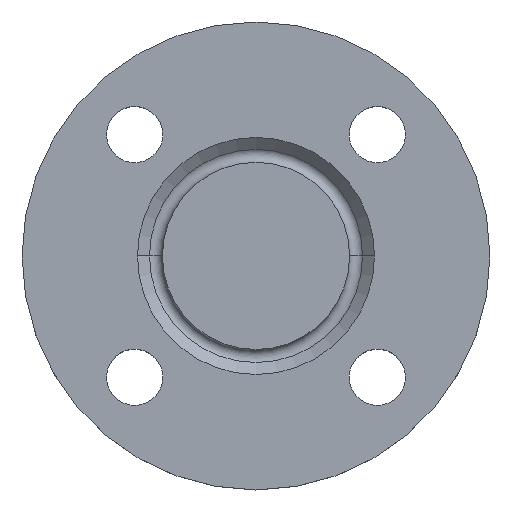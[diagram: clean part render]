
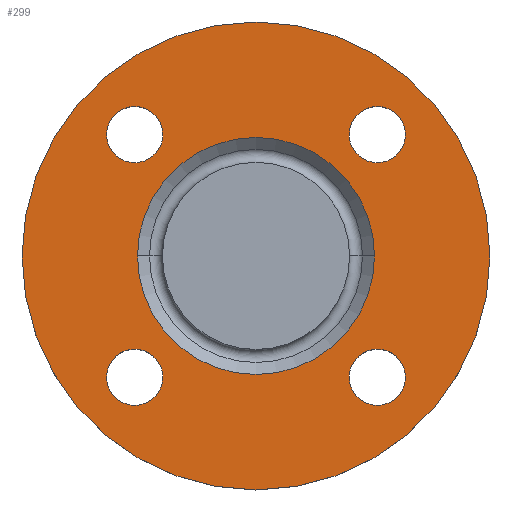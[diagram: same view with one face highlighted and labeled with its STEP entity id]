
A CAD part, top view. The second image highlights one B-rep face of the part: STEP entity #299.
In plain terms, the highlighted planar face has unit normal (0, 0, 1).
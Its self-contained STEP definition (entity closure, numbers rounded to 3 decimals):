
#3 = ORIENTED_EDGE ( 'NONE', *, *, #313, .T. ) ;
#5 = VERTEX_POINT ( 'NONE', #163 ) ;
#8 = EDGE_CURVE ( 'NONE', #284, #166, #88, .T. ) ;
#14 = EDGE_CURVE ( 'NONE', #5, #510, #663, .T. ) ;
#30 = DIRECTION ( 'NONE',  ( 0., 0., -1. ) ) ;
#40 = AXIS2_PLACEMENT_3D ( 'NONE', #171, #551, #682 ) ;
#43 = CARTESIAN_POINT ( 'NONE',  ( -38.891, -38.891, -2. ) ) ;
#48 = CARTESIAN_POINT ( 'NONE',  ( 38.891, 38.891, -2. ) ) ;
#59 = CARTESIAN_POINT ( 'NONE',  ( 47.891, 38.891, -2. ) ) ;
#61 = FACE_BOUND ( 'NONE', #539, .T. ) ;
#66 = DIRECTION ( 'NONE',  ( 0., 0., -1. ) ) ;
#88 = CIRCLE ( 'NONE', #436, 9. ) ;
#102 = AXIS2_PLACEMENT_3D ( 'NONE', #813, #734, #542 ) ;
#125 = DIRECTION ( 'NONE',  ( 0., 0., -1. ) ) ;
#132 = ORIENTED_EDGE ( 'NONE', *, *, #14, .T. ) ;
#133 = CARTESIAN_POINT ( 'NONE',  ( -38., 0., -2. ) ) ;
#139 = DIRECTION ( 'NONE',  ( 0., 0., -1. ) ) ;
#141 = DIRECTION ( 'NONE',  ( 1., 0., 0. ) ) ;
#153 = CARTESIAN_POINT ( 'NONE',  ( -47.891, 38.891, -2. ) ) ;
#156 = CARTESIAN_POINT ( 'NONE',  ( -29.891, -38.891, -2. ) ) ;
#157 = ORIENTED_EDGE ( 'NONE', *, *, #700, .T. ) ;
#163 = CARTESIAN_POINT ( 'NONE',  ( 47.891, -38.891, -2. ) ) ;
#166 = VERTEX_POINT ( 'NONE', #407 ) ;
#167 = VERTEX_POINT ( 'NONE', #457 ) ;
#171 = CARTESIAN_POINT ( 'NONE',  ( 0., 0., -2. ) ) ;
#173 = ORIENTED_EDGE ( 'NONE', *, *, #253, .T. ) ;
#195 = DIRECTION ( 'NONE',  ( 1., 0., 0. ) ) ;
#196 = DIRECTION ( 'NONE',  ( -1., 0., 0. ) ) ;
#197 = DIRECTION ( 'NONE',  ( 0., 0., -1. ) ) ;
#217 = CARTESIAN_POINT ( 'NONE',  ( -29.891, 38.891, -2. ) ) ;
#220 = DIRECTION ( 'NONE',  ( -1., 0., 0. ) ) ;
#221 = DIRECTION ( 'NONE',  ( 0., 0., -1. ) ) ;
#222 = VERTEX_POINT ( 'NONE', #133 ) ;
#225 = CARTESIAN_POINT ( 'NONE',  ( -38.891, -38.891, -2. ) ) ;
#226 = EDGE_CURVE ( 'NONE', #824, #599, #745, .T. ) ;
#227 = DIRECTION ( 'NONE',  ( 0., 0., -1. ) ) ;
#241 = EDGE_CURVE ( 'NONE', #377, #458, #301, .T. ) ;
#248 = CIRCLE ( 'NONE', #40, 75. ) ;
#251 = CARTESIAN_POINT ( 'NONE',  ( 38.891, -38.891, -2. ) ) ;
#253 = EDGE_CURVE ( 'NONE', #850, #222, #761, .T. ) ;
#254 = CARTESIAN_POINT ( 'NONE',  ( 38., 0., -2. ) ) ;
#270 = AXIS2_PLACEMENT_3D ( 'NONE', #251, #523, #601 ) ;
#283 = CARTESIAN_POINT ( 'NONE',  ( -38.891, 38.891, -2. ) ) ;
#284 = VERTEX_POINT ( 'NONE', #156 ) ;
#285 = EDGE_LOOP ( 'NONE', ( #425, #347 ) ) ;
#288 = DIRECTION ( 'NONE',  ( 0., 0., -1. ) ) ;
#295 = VERTEX_POINT ( 'NONE', #320 ) ;
#299 = ADVANCED_FACE ( 'NONE', ( #526, #371, #304, #61, #737, #324 ), #623, .T. ) ;
#301 = CIRCLE ( 'NONE', #614, 9. ) ;
#304 = FACE_BOUND ( 'NONE', #591, .T. ) ;
#313 = EDGE_CURVE ( 'NONE', #510, #5, #402, .T. ) ;
#319 = AXIS2_PLACEMENT_3D ( 'NONE', #43, #125, #355 ) ;
#320 = CARTESIAN_POINT ( 'NONE',  ( 75., 0., -2. ) ) ;
#324 = FACE_OUTER_BOUND ( 'NONE', #383, .T. ) ;
#327 = AXIS2_PLACEMENT_3D ( 'NONE', #816, #288, #492 ) ;
#347 = ORIENTED_EDGE ( 'NONE', *, *, #424, .T. ) ;
#355 = DIRECTION ( 'NONE',  ( 1., 0., 0. ) ) ;
#367 = CARTESIAN_POINT ( 'NONE',  ( 29.891, -38.891, -2. ) ) ;
#371 = FACE_BOUND ( 'NONE', #285, .T. ) ;
#373 = AXIS2_PLACEMENT_3D ( 'NONE', #48, #429, #384 ) ;
#377 = VERTEX_POINT ( 'NONE', #59 ) ;
#383 = EDGE_LOOP ( 'NONE', ( #634, #473 ) ) ;
#384 = DIRECTION ( 'NONE',  ( 1., 0., 0. ) ) ;
#391 = CARTESIAN_POINT ( 'NONE',  ( 0., 0., -2. ) ) ;
#402 = CIRCLE ( 'NONE', #327, 9. ) ;
#407 = CARTESIAN_POINT ( 'NONE',  ( -47.891, -38.891, -2. ) ) ;
#424 = EDGE_CURVE ( 'NONE', #166, #284, #579, .T. ) ;
#425 = ORIENTED_EDGE ( 'NONE', *, *, #8, .T. ) ;
#429 = DIRECTION ( 'NONE',  ( 0., 0., -1. ) ) ;
#436 = AXIS2_PLACEMENT_3D ( 'NONE', #225, #197, #655 ) ;
#454 = AXIS2_PLACEMENT_3D ( 'NONE', #391, #30, #220 ) ;
#455 = CARTESIAN_POINT ( 'NONE',  ( -38.891, 38.891, -2. ) ) ;
#457 = CARTESIAN_POINT ( 'NONE',  ( -75., 0., -2. ) ) ;
#458 = VERTEX_POINT ( 'NONE', #811 ) ;
#465 = AXIS2_PLACEMENT_3D ( 'NONE', #525, #729, #852 ) ;
#473 = ORIENTED_EDGE ( 'NONE', *, *, #603, .F. ) ;
#492 = DIRECTION ( 'NONE',  ( 1., 0., 0. ) ) ;
#496 = EDGE_LOOP ( 'NONE', ( #132, #3 ) ) ;
#502 = AXIS2_PLACEMENT_3D ( 'NONE', #641, #66, #196 ) ;
#510 = VERTEX_POINT ( 'NONE', #367 ) ;
#523 = DIRECTION ( 'NONE',  ( 0., 0., -1. ) ) ;
#524 = CIRCLE ( 'NONE', #691, 9. ) ;
#525 = CARTESIAN_POINT ( 'NONE',  ( 75., 0., -2. ) ) ;
#526 = FACE_BOUND ( 'NONE', #496, .T. ) ;
#539 = EDGE_LOOP ( 'NONE', ( #584, #632 ) ) ;
#542 = DIRECTION ( 'NONE',  ( -1., 0., 0. ) ) ;
#551 = DIRECTION ( 'NONE',  ( 0., 0., -1. ) ) ;
#567 = EDGE_CURVE ( 'NONE', #599, #824, #524, .T. ) ;
#579 = CIRCLE ( 'NONE', #319, 9. ) ;
#580 = EDGE_CURVE ( 'NONE', #295, #167, #662, .T. ) ;
#584 = ORIENTED_EDGE ( 'NONE', *, *, #241, .T. ) ;
#587 = CIRCLE ( 'NONE', #502, 38. ) ;
#591 = EDGE_LOOP ( 'NONE', ( #793, #743 ) ) ;
#599 = VERTEX_POINT ( 'NONE', #217 ) ;
#601 = DIRECTION ( 'NONE',  ( 1., 0., 0. ) ) ;
#603 = EDGE_CURVE ( 'NONE', #167, #295, #248, .T. ) ;
#604 = AXIS2_PLACEMENT_3D ( 'NONE', #455, #227, #842 ) ;
#614 = AXIS2_PLACEMENT_3D ( 'NONE', #624, #221, #141 ) ;
#623 = PLANE ( 'NONE',  #465 ) ;
#624 = CARTESIAN_POINT ( 'NONE',  ( 38.891, 38.891, -2. ) ) ;
#632 = ORIENTED_EDGE ( 'NONE', *, *, #791, .T. ) ;
#634 = ORIENTED_EDGE ( 'NONE', *, *, #580, .F. ) ;
#641 = CARTESIAN_POINT ( 'NONE',  ( 0., 0., -2. ) ) ;
#655 = DIRECTION ( 'NONE',  ( 1., 0., 0. ) ) ;
#662 = CIRCLE ( 'NONE', #102, 75. ) ;
#663 = CIRCLE ( 'NONE', #270, 9. ) ;
#682 = DIRECTION ( 'NONE',  ( -1., 0., 0. ) ) ;
#691 = AXIS2_PLACEMENT_3D ( 'NONE', #283, #139, #195 ) ;
#700 = EDGE_CURVE ( 'NONE', #222, #850, #587, .T. ) ;
#704 = EDGE_LOOP ( 'NONE', ( #173, #157 ) ) ;
#729 = DIRECTION ( 'NONE',  ( 0., 0., 1. ) ) ;
#734 = DIRECTION ( 'NONE',  ( 0., 0., -1. ) ) ;
#737 = FACE_BOUND ( 'NONE', #704, .T. ) ;
#743 = ORIENTED_EDGE ( 'NONE', *, *, #226, .T. ) ;
#745 = CIRCLE ( 'NONE', #604, 9. ) ;
#761 = CIRCLE ( 'NONE', #454, 38. ) ;
#791 = EDGE_CURVE ( 'NONE', #458, #377, #798, .T. ) ;
#793 = ORIENTED_EDGE ( 'NONE', *, *, #567, .T. ) ;
#798 = CIRCLE ( 'NONE', #373, 9. ) ;
#811 = CARTESIAN_POINT ( 'NONE',  ( 29.891, 38.891, -2. ) ) ;
#813 = CARTESIAN_POINT ( 'NONE',  ( 0., 0., -2. ) ) ;
#816 = CARTESIAN_POINT ( 'NONE',  ( 38.891, -38.891, -2. ) ) ;
#824 = VERTEX_POINT ( 'NONE', #153 ) ;
#842 = DIRECTION ( 'NONE',  ( 1., 0., 0. ) ) ;
#850 = VERTEX_POINT ( 'NONE', #254 ) ;
#852 = DIRECTION ( 'NONE',  ( 1., 0., 0. ) ) ;
